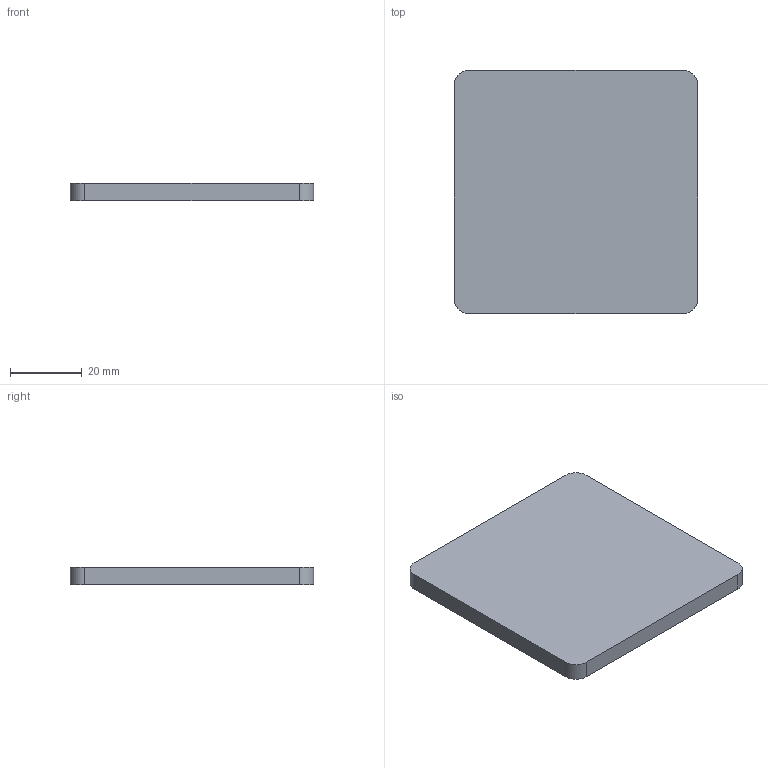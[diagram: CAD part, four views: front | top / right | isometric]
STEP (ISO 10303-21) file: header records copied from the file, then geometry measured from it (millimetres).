
FILE_DESCRIPTION(/* description */ (''),/* implementation_level */ '2;1');
FILE_NAME(/* name */ 'Pos132-Plaatwerk D= 5-S235JRG2-3st',/* time_stamp */ '2024-08-06T13:37:43+02:00',/* author */ (''),/* organization */ (''),/* preprocessor_version */ 'ST-DEVELOPER v16.5',/* originating_system */ 'HiCAD 2024 2901.2 Build 361',/* authorisation */ '');
FILE_SCHEMA (('AUTOMOTIVE_DESIGN { 1 0 10303 214 1 1 1 1 }'));
Length unit declared in the file: millimetre
Products named in the file (1): Pos132-Plaatwerk D= 5-S235JRG2-3st
Bounding box: 68 x 68 x 5 mm (x, y, z)
Volume: 23051.3 mm3; surface area: 10546.2 mm2
Topology: 1 solids, 1 shells, 10 faces, 24 edges, 16 vertices
Faces by surface type: plane 6, cylinder 4
Entity records: 554 total; most frequent: DIRECTION 52, CARTESIAN_POINT 50, PRESENTATION_STYLE_ASSIGNMENT 49, COLOUR_RGB 49, DRAUGHTING_PRE_DEFINED_CURVE_FONT 48, CURVE_STYLE 48, OVER_RIDING_STYLED_ITEM 48, ORIENTED_EDGE 48
